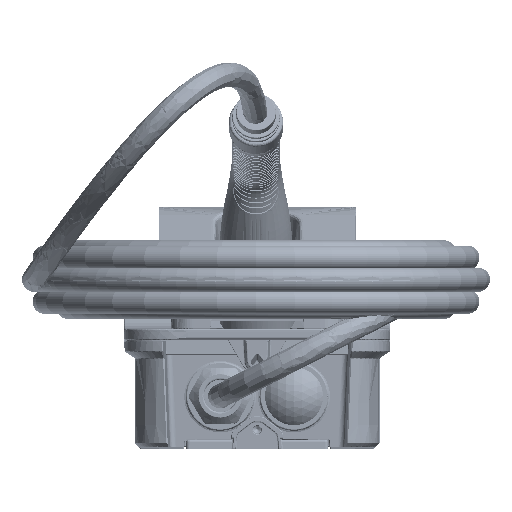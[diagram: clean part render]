
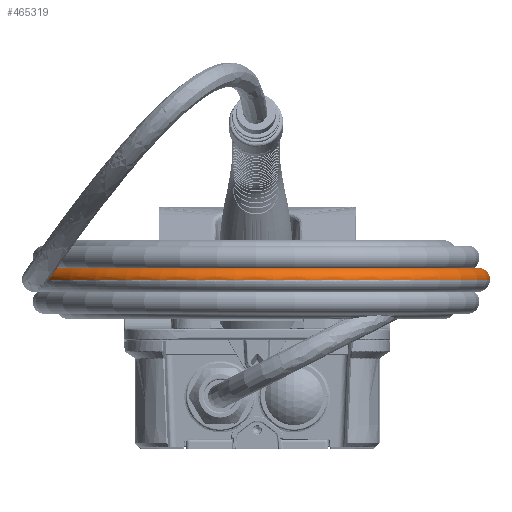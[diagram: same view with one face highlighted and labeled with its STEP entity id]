
A CAD part, front view. The second image highlights one B-rep face of the part: STEP entity #465319.
In plain terms, the highlighted toroidal (fillet/blend) face has major radius 174.411 mm and minor radius 9.55 mm.
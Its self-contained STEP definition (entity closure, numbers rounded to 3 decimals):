
#11699 = CARTESIAN_POINT ( 'NONE',  ( -163.76, -64.369, 131.668 ) ) ;
#14777 = CARTESIAN_POINT ( 'NONE',  ( -162.977, -65.233, 133.771 ) ) ;
#20850 = CARTESIAN_POINT ( 'NONE',  ( -163.884, -64.133, 131.436 ) ) ;
#23859 = CARTESIAN_POINT ( 'NONE',  ( -171.048, -26.157, 140.739 ) ) ;
#23930 = CARTESIAN_POINT ( 'NONE',  ( -175.296, 16.955, 140.986 ) ) ;
#26930 = CARTESIAN_POINT ( 'NONE',  ( -162.818, -64.767, 134.895 ) ) ;
#29965 = CARTESIAN_POINT ( 'NONE',  ( -169.359, -34.311, 140.533 ) ) ;
#33033 = CARTESIAN_POINT ( 'NONE',  ( -164.404, -55.849, 138.606 ) ) ;
#33479 = CARTESIAN_POINT ( 'NONE',  ( 183.051, 21.194, 131.436 ) ) ;
#41905 = DIRECTION ( 'NONE',  ( 0., 0., -1. ) ) ;
#48286 = CIRCLE ( 'NONE', #335065, 9.55 ) ;
#58456 = DIRECTION ( 'NONE',  ( 0., 0., -1. ) ) ;
#61131 = CARTESIAN_POINT ( 'NONE',  ( -163.392, -64.955, 132.47 ) ) ;
#72202 = CARTESIAN_POINT ( 'NONE',  ( 163.951, 21.194, 131.436 ) ) ;
#73274 = CARTESIAN_POINT ( 'NONE',  ( -173.034, -15.236, 140.867 ) ) ;
#76367 = CARTESIAN_POINT ( 'NONE',  ( -163.401, -60.479, 137.417 ) ) ;
#82459 = CARTESIAN_POINT ( 'NONE',  ( -163.959, -57.842, 138.161 ) ) ;
#93980 = DIRECTION ( 'NONE',  ( -1., 0., 0. ) ) ;
#101164 = VERTEX_POINT ( 'NONE', #573474 ) ;
#119778 = CARTESIAN_POINT ( 'NONE',  ( -165.653, -50.505, 139.416 ) ) ;
#125838 = CARTESIAN_POINT ( 'NONE',  ( -163.814, -58.507, 137.997 ) ) ;
#125910 = CARTESIAN_POINT ( 'NONE',  ( -175.281, 15.896, 140.986 ) ) ;
#125941 = ORIENTED_EDGE ( 'NONE', *, *, #208389, .F. ) ;
#131764 = DIRECTION ( 'NONE',  ( -1., 0., 0. ) ) ;
#149724 = EDGE_CURVE ( 'NONE', #198341, #241023, #48286, .T. ) ;
#154075 = CARTESIAN_POINT ( 'NONE',  ( -163.064, -65.239, 133.429 ) ) ;
#157144 = CARTESIAN_POINT ( 'NONE',  ( -162.827, -64.868, 134.751 ) ) ;
#163176 = CARTESIAN_POINT ( 'NONE',  ( -166.6, -46.477, 139.83 ) ) ;
#166185 = CARTESIAN_POINT ( 'NONE',  ( -165.337, -51.844, 139.248 ) ) ;
#166838 = B_SPLINE_CURVE_WITH_KNOTS ( 'NONE', 3,
 ( #20850, #11699, #200491, #61131, #389245, #578321, #154075, #14777, #342860, #203501, #581335, #157144, #26930, #590403, #354995, #500434, #587334, #401400, #543865, #305467, #450830, #76367, #361115, #125838, #82459, #33033, #215656, #166185, #119778, #265190, #163176, #271248, #308470, #29965, #169256, #23859, #497402, #404460, #73274, #506521, #259045, #593425, #460041, #358038 ),
 .UNSPECIFIED., .F., .F.,
 ( 4, 2, 2, 2, 2, 2, 2, 2, 2, 2, 2, 2, 2, 2, 2, 2, 2, 2, 2, 2, 2, 4 ),
 ( 0.063, 0.064, 0.065, 0.065, 0.066, 0.066, 0.067, 0.067, 0.068, 0.069, 0.071, 0.073, 0.075, 0.079, 0.084, 0.088, 0.096, 0.105, 0.113, 0.121, 0.125, 0.13 ),
 .UNSPECIFIED. ) ;
#169256 = CARTESIAN_POINT ( 'NONE',  ( -169.939, -31.597, 140.614 ) ) ;
#181305 = FACE_OUTER_BOUND ( 'NONE', #337959, .T. ) ;
#184100 = CARTESIAN_POINT ( 'NONE',  ( -174.395, -4.206, 140.941 ) ) ;
#192591 = ORIENTED_EDGE ( 'NONE', *, *, #346048, .F. ) ;
#198341 = VERTEX_POINT ( 'NONE', #72202 ) ;
#199099 = VERTEX_POINT ( 'NONE', #222265 ) ;
#200491 = CARTESIAN_POINT ( 'NONE',  ( -163.637, -64.587, 131.917 ) ) ;
#203501 = CARTESIAN_POINT ( 'NONE',  ( -162.879, -65.111, 134.28 ) ) ;
#205247 = VERTEX_POINT ( 'NONE', #301809 ) ;
#208389 = EDGE_CURVE ( 'NONE', #101164, #262857, #166838, .T. ) ;
#212681 = ORIENTED_EDGE ( 'NONE', *, *, #149724, .F. ) ;
#215656 = CARTESIAN_POINT ( 'NONE',  ( -164.713, -54.516, 138.842 ) ) ;
#215730 = CARTESIAN_POINT ( 'NONE',  ( -175.224, 12.718, 140.985 ) ) ;
#220207 = AXIS2_PLACEMENT_3D ( 'NONE', #407310, #41905, #131764 ) ;
#222265 = CARTESIAN_POINT ( 'NONE',  ( -165.77, 21.194, 131.436 ) ) ;
#229874 = CIRCLE ( 'NONE', #407470, 183.961 ) ;
#241023 = VERTEX_POINT ( 'NONE', #33479 ) ;
#259045 = CARTESIAN_POINT ( 'NONE',  ( -173.832, -9.741, 140.904 ) ) ;
#259366 = DIRECTION ( 'NONE',  ( 0., -1., 0. ) ) ;
#262857 = VERTEX_POINT ( 'NONE', #184100 ) ;
#265190 = CARTESIAN_POINT ( 'NONE',  ( -166.284, -47.821, 139.707 ) ) ;
#271248 = CARTESIAN_POINT ( 'NONE',  ( -167.541, -42.436, 140.15 ) ) ;
#278853 = DIRECTION ( 'NONE',  ( -1., 0., 0. ) ) ;
#279671 = AXIS2_PLACEMENT_3D ( 'NONE', #323005, #329129, #93980 ) ;
#285629 = B_SPLINE_CURVE_WITH_KNOTS ( 'NONE', 3,
 ( #550087, #398427, #497479, #593501, #215730, #125910, #23930, #348999, #491402, #314627 ),
 .UNSPECIFIED., .F., .F.,
 ( 4, 2, 2, 2, 4 ),
 ( 0.144, 0.157, 0.163, 0.166, 0.169 ),
 .UNSPECIFIED. ) ;
#289843 = CIRCLE ( 'NONE', #279671, 164.861 ) ;
#301809 = CARTESIAN_POINT ( 'NONE',  ( -175.32, 21.194, 140.986 ) ) ;
#305467 = CARTESIAN_POINT ( 'NONE',  ( -163.046, -62.393, 136.662 ) ) ;
#305806 = CARTESIAN_POINT ( 'NONE',  ( -175.32, 21.194, 131.436 ) ) ;
#308470 = CARTESIAN_POINT ( 'NONE',  ( -168.16, -39.733, 140.3 ) ) ;
#314627 = CARTESIAN_POINT ( 'NONE',  ( -175.32, 21.194, 140.986 ) ) ;
#318413 = CARTESIAN_POINT ( 'NONE',  ( 173.501, 21.194, 131.436 ) ) ;
#321456 = DIRECTION ( 'NONE',  ( 0., 1., 0. ) ) ;
#323005 = CARTESIAN_POINT ( 'NONE',  ( -0.91, 21.194, 131.436 ) ) ;
#323283 = ORIENTED_EDGE ( 'NONE', *, *, #513869, .T. ) ;
#328273 = DIRECTION ( 'NONE',  ( 0., 0., -1. ) ) ;
#329129 = DIRECTION ( 'NONE',  ( 0., 0., -1. ) ) ;
#335065 = AXIS2_PLACEMENT_3D ( 'NONE', #318413, #321456, #507328 ) ;
#335691 = AXIS2_PLACEMENT_3D ( 'NONE', #305806, #259366, #58456 ) ;
#337959 = EDGE_LOOP ( 'NONE', ( #502942, #212681, #491434, #323283, #192591, #125941 ) ) ;
#342860 = CARTESIAN_POINT ( 'NONE',  ( -162.939, -65.207, 133.945 ) ) ;
#346048 = EDGE_CURVE ( 'NONE', #262857, #205247, #285629, .T. ) ;
#348999 = CARTESIAN_POINT ( 'NONE',  ( -175.315, 19.073, 140.986 ) ) ;
#352138 = EDGE_CURVE ( 'NONE', #241023, #101164, #229874, .T. ) ;
#354995 = CARTESIAN_POINT ( 'NONE',  ( -162.815, -64.418, 135.295 ) ) ;
#358038 = CARTESIAN_POINT ( 'NONE',  ( -174.395, -4.206, 140.941 ) ) ;
#361115 = CARTESIAN_POINT ( 'NONE',  ( -163.534, -59.826, 137.624 ) ) ;
#389245 = CARTESIAN_POINT ( 'NONE',  ( -163.275, -65.101, 132.765 ) ) ;
#398427 = CARTESIAN_POINT ( 'NONE',  ( -174.703, 0.019, 140.971 ) ) ;
#401400 = CARTESIAN_POINT ( 'NONE',  ( -162.877, -63.605, 135.963 ) ) ;
#404460 = CARTESIAN_POINT ( 'NONE',  ( -172.57, -17.972, 140.846 ) ) ;
#407310 = CARTESIAN_POINT ( 'NONE',  ( -0.91, 21.194, 131.436 ) ) ;
#407470 = AXIS2_PLACEMENT_3D ( 'NONE', #473779, #328273, #278853 ) ;
#407922 = TOROIDAL_SURFACE ( 'NONE', #220207, 174.411, 9.55 ) ;
#450830 = CARTESIAN_POINT ( 'NONE',  ( -163.157, -61.762, 136.935 ) ) ;
#460041 = CARTESIAN_POINT ( 'NONE',  ( -174.302, -5.596, 140.93 ) ) ;
#465319 = ADVANCED_FACE ( 'NONE', ( #181305 ), #407922, .T. ) ;
#473779 = CARTESIAN_POINT ( 'NONE',  ( -0.91, 21.194, 131.436 ) ) ;
#474031 = CIRCLE ( 'NONE', #335691, 9.55 ) ;
#491402 = CARTESIAN_POINT ( 'NONE',  ( -175.319, 20.13, 140.986 ) ) ;
#491434 = ORIENTED_EDGE ( 'NONE', *, *, #565940, .T. ) ;
#497402 = CARTESIAN_POINT ( 'NONE',  ( -171.578, -23.433, 140.781 ) ) ;
#497479 = CARTESIAN_POINT ( 'NONE',  ( -174.934, 4.25, 140.979 ) ) ;
#500434 = CARTESIAN_POINT ( 'NONE',  ( -162.828, -64.159, 135.534 ) ) ;
#502942 = ORIENTED_EDGE ( 'NONE', *, *, #352138, .F. ) ;
#506521 = CARTESIAN_POINT ( 'NONE',  ( -173.643, -11.117, 140.895 ) ) ;
#507328 = DIRECTION ( 'NONE',  ( -1., 0., 0. ) ) ;
#513869 = EDGE_CURVE ( 'NONE', #199099, #205247, #474031, .T. ) ;
#543865 = CARTESIAN_POINT ( 'NONE',  ( -162.914, -63.307, 136.151 ) ) ;
#550087 = CARTESIAN_POINT ( 'NONE',  ( -174.395, -4.206, 140.941 ) ) ;
#565940 = EDGE_CURVE ( 'NONE', #198341, #199099, #289843, .T. ) ;
#573474 = CARTESIAN_POINT ( 'NONE',  ( -163.884, -64.133, 131.436 ) ) ;
#578321 = CARTESIAN_POINT ( 'NONE',  ( -163.114, -65.219, 133.258 ) ) ;
#581335 = CARTESIAN_POINT ( 'NONE',  ( -162.857, -65.041, 134.443 ) ) ;
#587334 = CARTESIAN_POINT ( 'NONE',  ( -162.838, -64.024, 135.646 ) ) ;
#590403 = CARTESIAN_POINT ( 'NONE',  ( -162.813, -64.542, 135.167 ) ) ;
#593425 = CARTESIAN_POINT ( 'NONE',  ( -174.16, -6.981, 140.921 ) ) ;
#593501 = CARTESIAN_POINT ( 'NONE',  ( -175.166, 10.601, 140.985 ) ) ;
